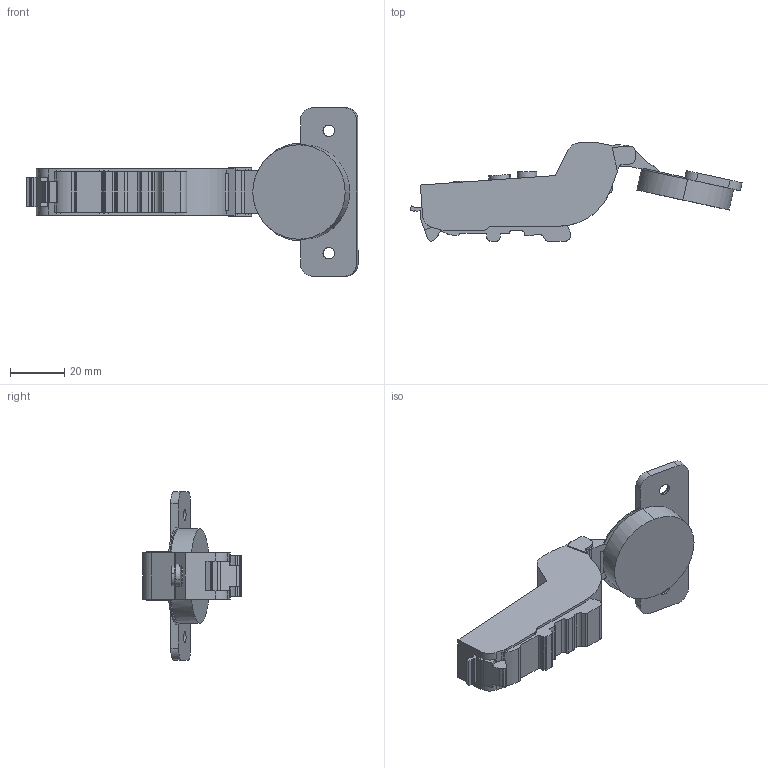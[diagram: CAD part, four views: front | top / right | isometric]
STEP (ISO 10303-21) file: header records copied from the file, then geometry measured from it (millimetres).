
FILE_DESCRIPTION (( 'STEP AP203' ), '1' );
FILE_NAME ('C81C8Q5FAB -DTC 3D open.STEP', '2024-11-30T00:23:52', ( '微软用户' ), ( '微软中国' ), 'SwSTEP 2.0', 'SolidWorks 2021', '' );
FILE_SCHEMA (( 'CONFIG_CONTROL_DESIGN' ));
Length unit declared in the file: millimetre
Products named in the file (1): C81C8Q5FAB -DTC 3D open
Bounding box: 122.28 x 36.34 x 62 mm (x, y, z)
Volume: 39258.2 mm3; surface area: 12093.7 mm2
Topology: 1 solids, 1 shells, 200 faces, 563 edges, 370 vertices
Faces by surface type: plane 97, cylinder 87, torus 12, cone 4
Entity records: 6595 total; most frequent: CARTESIAN_POINT 1179, DIRECTION 1159, ORIENTED_EDGE 1126, EDGE_CURVE 563, AXIS2_PLACEMENT_3D 410, VERTEX_POINT 370, VECTOR 339, LINE 339
